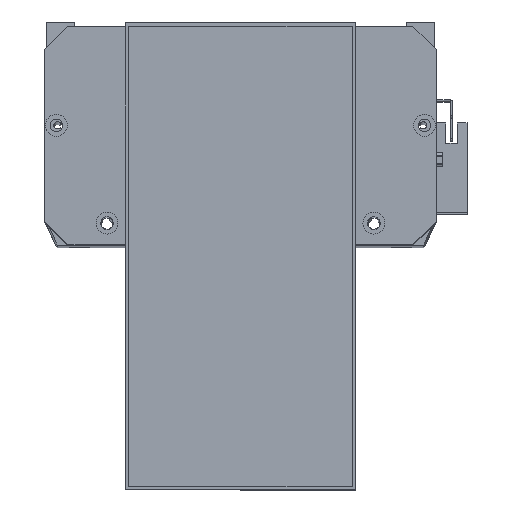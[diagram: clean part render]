
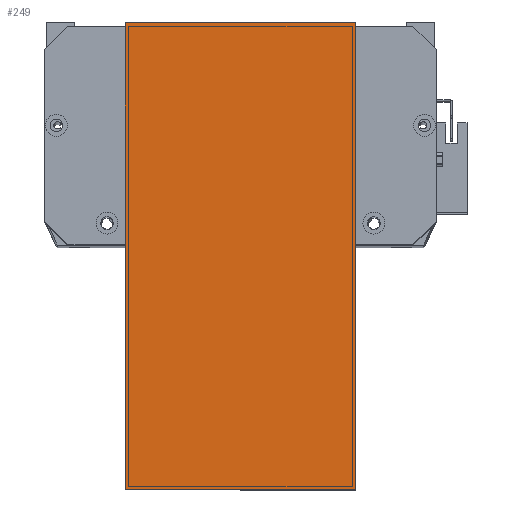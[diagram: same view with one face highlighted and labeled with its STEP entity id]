
A CAD part, top view. The second image highlights one B-rep face of the part: STEP entity #249.
In plain terms, the highlighted planar face has unit normal (0, 0, 1) as drawn and (0, 0, -1) by its records, which use the part's own axes.
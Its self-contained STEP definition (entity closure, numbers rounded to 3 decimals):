
#249 = ADVANCED_FACE ( 'NONE', ( #10379 ), #21047, .T. ) ;
#256 = DIRECTION ( 'NONE',  ( 1., 0., 0. ) ) ;
#820 = ORIENTED_EDGE ( 'NONE', *, *, #4214, .F. ) ;
#1239 = VECTOR ( 'NONE', #256, 1000. ) ;
#2785 = VERTEX_POINT ( 'NONE', #3008 ) ;
#3008 = CARTESIAN_POINT ( 'NONE',  ( 0., 119.5, 0. ) ) ;
#3118 = LINE ( 'NONE', #20552, #8780 ) ;
#3718 = EDGE_CURVE ( 'NONE', #16120, #16053, #26451, .T. ) ;
#3812 = VECTOR ( 'NONE', #12356, 1000. ) ;
#3952 = AXIS2_PLACEMENT_3D ( 'NONE', #25413, #23250, #11326 ) ;
#4214 = EDGE_CURVE ( 'NONE', #4289, #16120, #3118, .T. ) ;
#4289 = VERTEX_POINT ( 'NONE', #6019 ) ;
#6019 = CARTESIAN_POINT ( 'NONE',  ( 0., 19.5, 0. ) ) ;
#6495 = DIRECTION ( 'NONE',  ( 0., -1., 0. ) ) ;
#7167 = ORIENTED_EDGE ( 'NONE', *, *, #3718, .F. ) ;
#8272 = VECTOR ( 'NONE', #6495, 1000. ) ;
#8620 = EDGE_CURVE ( 'NONE', #2785, #4289, #13223, .T. ) ;
#8722 = CARTESIAN_POINT ( 'NONE',  ( -12., 119.5, 0. ) ) ;
#8780 = VECTOR ( 'NONE', #9819, 1000. ) ;
#9819 = DIRECTION ( 'NONE',  ( 1., 0., 0. ) ) ;
#10204 = CARTESIAN_POINT ( 'NONE',  ( 203., 0., 0. ) ) ;
#10379 = FACE_OUTER_BOUND ( 'NONE', #19339, .T. ) ;
#11326 = DIRECTION ( 'NONE',  ( -1., 0., 0. ) ) ;
#12356 = DIRECTION ( 'NONE',  ( 0., 1., 0. ) ) ;
#13223 = LINE ( 'NONE', #19271, #8272 ) ;
#16053 = VERTEX_POINT ( 'NONE', #23610 ) ;
#16120 = VERTEX_POINT ( 'NONE', #21631 ) ;
#19271 = CARTESIAN_POINT ( 'NONE',  ( 0., 0., 0. ) ) ;
#19339 = EDGE_LOOP ( 'NONE', ( #820, #24228, #23670, #7167 ) ) ;
#20552 = CARTESIAN_POINT ( 'NONE',  ( -12., 19.5, 0. ) ) ;
#21047 = PLANE ( 'NONE',  #3952 ) ;
#21631 = CARTESIAN_POINT ( 'NONE',  ( 203., 19.5, 0. ) ) ;
#23250 = DIRECTION ( 'NONE',  ( 0., 0., -1. ) ) ;
#23610 = CARTESIAN_POINT ( 'NONE',  ( 203., 119.5, 0. ) ) ;
#23670 = ORIENTED_EDGE ( 'NONE', *, *, #26968, .T. ) ;
#24228 = ORIENTED_EDGE ( 'NONE', *, *, #8620, .F. ) ;
#24545 = LINE ( 'NONE', #8722, #1239 ) ;
#25413 = CARTESIAN_POINT ( 'NONE',  ( 0., 0., 0. ) ) ;
#26451 = LINE ( 'NONE', #10204, #3812 ) ;
#26968 = EDGE_CURVE ( 'NONE', #2785, #16053, #24545, .T. ) ;
